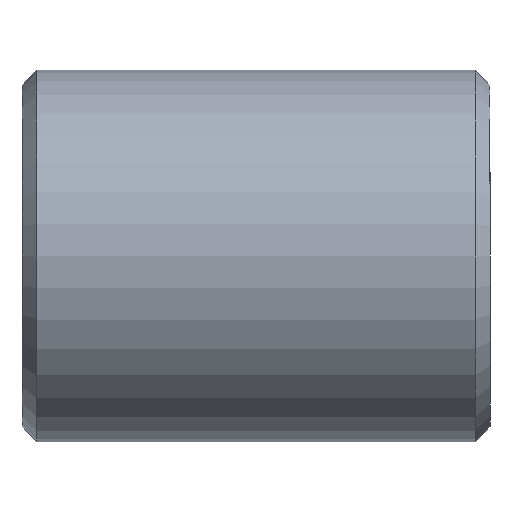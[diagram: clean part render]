
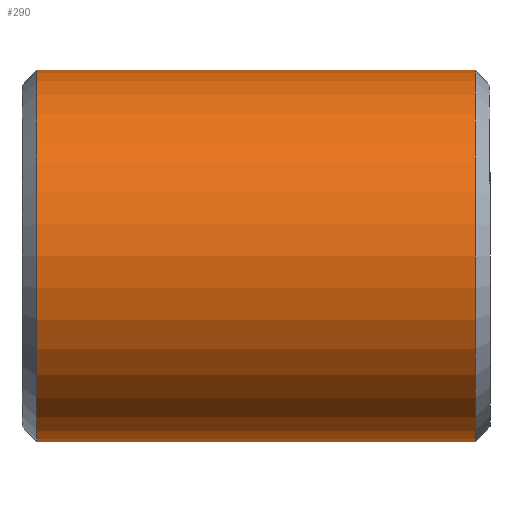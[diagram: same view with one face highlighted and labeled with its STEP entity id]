
A CAD part, front view. The second image highlights one B-rep face of the part: STEP entity #290.
In plain terms, the highlighted cylindrical face has radius 3.175 mm (diameter 6.35 mm), a partial arc.
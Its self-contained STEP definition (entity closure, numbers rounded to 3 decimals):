
#182=CARTESIAN_POINT('POINT13',(-7.746,0.,
   -3.175));
#183=VERTEX_POINT('VERTEX13',#182);
#191=CARTESIAN_POINT('POINT14',(-7.746,0.,
   3.175));
#192=VERTEX_POINT('VERTEX14',#191);
#199=CARTESIAN_POINT('POS20',(-7.746,0.,
   0.));
#200=DIRECTION('DIR31',(1.,0.,0.));
#201=DIRECTION('DIR32',(0.,0.,
   1.));
#202=AXIS2_PLACEMENT_3D('AXIS12',#199,#200,#201);
#203=CIRCLE('ELLIPSE7',#202,3.175);
#214=CARTESIAN_POINT('POINT15',(-0.254,
   0.,3.175));
#215=VERTEX_POINT('VERTEX15',#214);
#223=CARTESIAN_POINT('POINT16',(-0.254,
   0.,-3.175));
#224=VERTEX_POINT('VERTEX16',#223);
#231=CARTESIAN_POINT('POS24',(-0.254,0.,0.
   ));
#232=DIRECTION('DIR37',(-1.,0.,0.));
#233=DIRECTION('DIR38',(0.,0.,
   1.));
#234=AXIS2_PLACEMENT_3D('AXIS14',#231,#232,#233);
#235=CIRCLE('ELLIPSE8',#234,3.175);
#247=EDGE_CURVE('EDGE25',#224,#215,#235,.T.);
#255=EDGE_CURVE('EDGE26',#192,#183,#203,.T.);
#262=CARTESIAN_POINT('POS26',(-4.,0.,3.175
   ));
#263=DIRECTION('DIR41',(1.,0.,0.));
#264=VECTOR('VEC11',#263,1.);
#265=LINE('STRAIGHT11',#262,#264);
#266=EDGE_CURVE('EDGE27',#192,#215,#265,.T.);
#269=CARTESIAN_POINT('POS27',(-4.,0.,
   -3.175));
#270=DIRECTION('DIR42',(-1.,0.,0.));
#271=VECTOR('VEC12',#270,1.);
#272=LINE('STRAIGHT12',#269,#271);
#273=EDGE_CURVE('EDGE28',#224,#183,#272,.T.);
#278=CARTESIAN_POINT('POS28',(-4.,0.,0.)
   );
#279=DIRECTION('DIR43',(1.,0.,0.));
#280=DIRECTION('DIR44',(0.,0.,
   1.));
#281=AXIS2_PLACEMENT_3D('AXIS16',#278,#279,#280);
#282=CYLINDRICAL_SURFACE('CONE_SURF6',#281,3.175);
#284=ORIENTED_EDGE('COEDGE53',*,*,#266,.F.);
#285=ORIENTED_EDGE('COEDGE54',*,*,#255,.T.);
#286=ORIENTED_EDGE('COEDGE55',*,*,#273,.F.);
#287=ORIENTED_EDGE('COEDGE56',*,*,#247,.T.);
#288=EDGE_LOOP('NONE',(#284,#285,#286,#287));
#289=FACE_BOUND('LOOP1',#288,.T.);
#290=ADVANCED_FACE('FACE14',(#289),#282,.T.);
